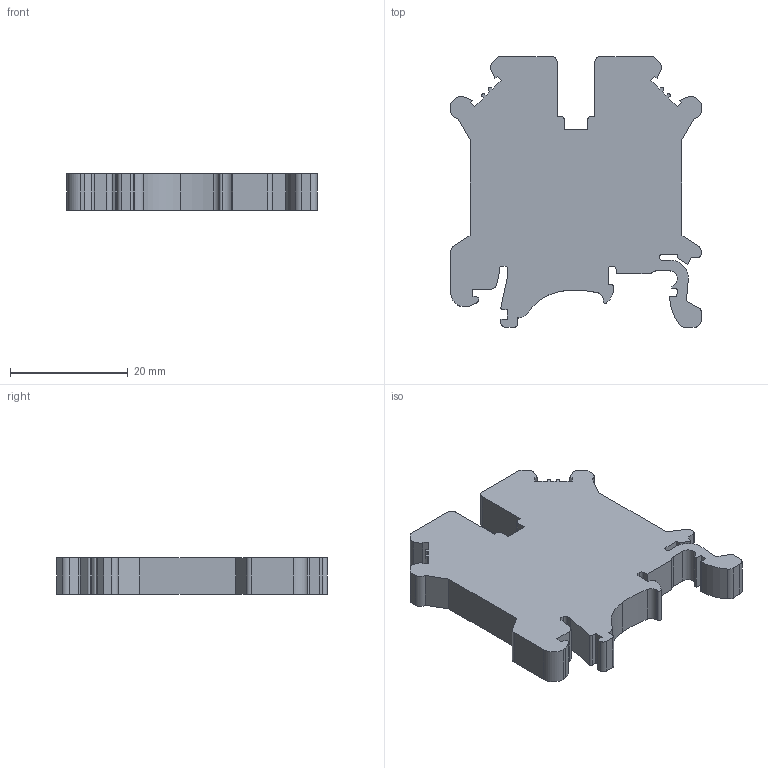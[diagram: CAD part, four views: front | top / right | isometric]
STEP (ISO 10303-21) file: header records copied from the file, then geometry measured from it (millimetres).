
FILE_DESCRIPTION(/* description */ (''),/* implementation_level */ '2;1');
FILE_NAME(/* name */ 'UT1-4.stp',/* time_stamp */ '2022-12-21T09:26:36+08:00',/* author */ (''),/* organization */ (''),/* preprocessor_version */ 'ST-DEVELOPER v16.7',/* originating_system */ 'SIEMENS PLM Software NX 12.0',/* authorisation */ '');
FILE_SCHEMA (('AUTOMOTIVE_DESIGN { 1 0 10303 214 3 1 1 1 }'));
Length unit declared in the file: millimetre
Products named in the file (1): _model1
Bounding box: 42.5 x 46 x 6.2 mm (x, y, z)
Volume: 8606 mm3; surface area: 4427 mm2
Topology: 1 solids, 1 shells, 134 faces, 396 edges, 264 vertices
Faces by surface type: plane 91, cylinder 43
Entity records: 4490 total; most frequent: CARTESIAN_POINT 795, ORIENTED_EDGE 792, DIRECTION 752, EDGE_CURVE 396, LINE 310, VECTOR 310, VERTEX_POINT 264, AXIS2_PLACEMENT_3D 221
